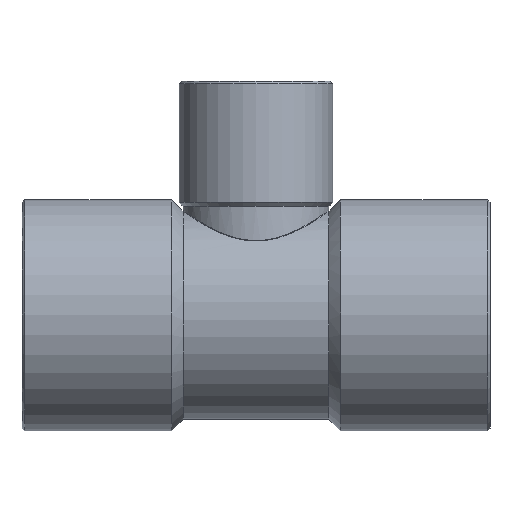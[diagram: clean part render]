
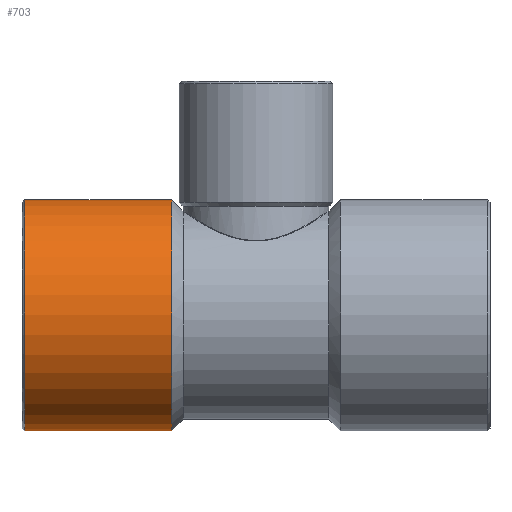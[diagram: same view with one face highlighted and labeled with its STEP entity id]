
A CAD part, top view. The second image highlights one B-rep face of the part: STEP entity #703.
In plain terms, the highlighted cylindrical face has radius 8.9 mm (diameter 17.8 mm), a partial arc.
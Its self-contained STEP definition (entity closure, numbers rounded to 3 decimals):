
#175=CARTESIAN_POINT('',(-6.5,8.9,0.0));
#176=VERTEX_POINT('',#175);
#185=CARTESIAN_POINT('',(-6.5,-8.9,0.));
#186=VERTEX_POINT('',#185);
#187=CARTESIAN_POINT('',(-6.5,0.0,0.0));
#188=DIRECTION('',(1.0,0.0,0.0));
#189=DIRECTION('',(0.0,1.0,0.0));
#190=AXIS2_PLACEMENT_3D('',#187,#188,#189);
#191=CIRCLE('',#190,8.9);
#192=EDGE_CURVE('',#176,#186,#191,.T.);
#672=CARTESIAN_POINT('',(-12.25,0.0,0.0));
#673=DIRECTION('',(1.0,0.0,0.0));
#674=DIRECTION('',(0.0,1.0,0.0));
#675=AXIS2_PLACEMENT_3D('',#672,#673,#674);
#676=CYLINDRICAL_SURFACE('',#675,8.9);
#677=CARTESIAN_POINT('',(-17.8,8.9,0.));
#678=VERTEX_POINT('',#677);
#679=CARTESIAN_POINT('',(-17.8,8.9,0.));
#680=DIRECTION('',(1.0,0.0,0.0));
#681=VECTOR('',#680,11.3);
#682=LINE('',#679,#681);
#683=EDGE_CURVE('',#678,#176,#682,.T.);
#684=ORIENTED_EDGE('',*,*,#683,.F.);
#685=CARTESIAN_POINT('',(-17.8,-8.9,0.));
#686=VERTEX_POINT('',#685);
#687=CARTESIAN_POINT('',(-17.8,0.0,0.0));
#688=DIRECTION('',(-1.0,0.0,0.0));
#689=DIRECTION('',(0.0,-1.0,0.0));
#690=AXIS2_PLACEMENT_3D('',#687,#688,#689);
#691=CIRCLE('',#690,8.9);
#692=EDGE_CURVE('',#686,#678,#691,.T.);
#693=ORIENTED_EDGE('',*,*,#692,.F.);
#694=CARTESIAN_POINT('',(-6.5,-8.9,0.));
#695=DIRECTION('',(-1.0,0.0,0.0));
#696=VECTOR('',#695,11.3);
#697=LINE('',#694,#696);
#698=EDGE_CURVE('',#186,#686,#697,.T.);
#699=ORIENTED_EDGE('',*,*,#698,.F.);
#700=ORIENTED_EDGE('',*,*,#192,.F.);
#701=EDGE_LOOP('',(#684,#693,#699,#700));
#702=FACE_OUTER_BOUND('',#701,.T.);
#703=ADVANCED_FACE('',(#702),#676,.T.);
